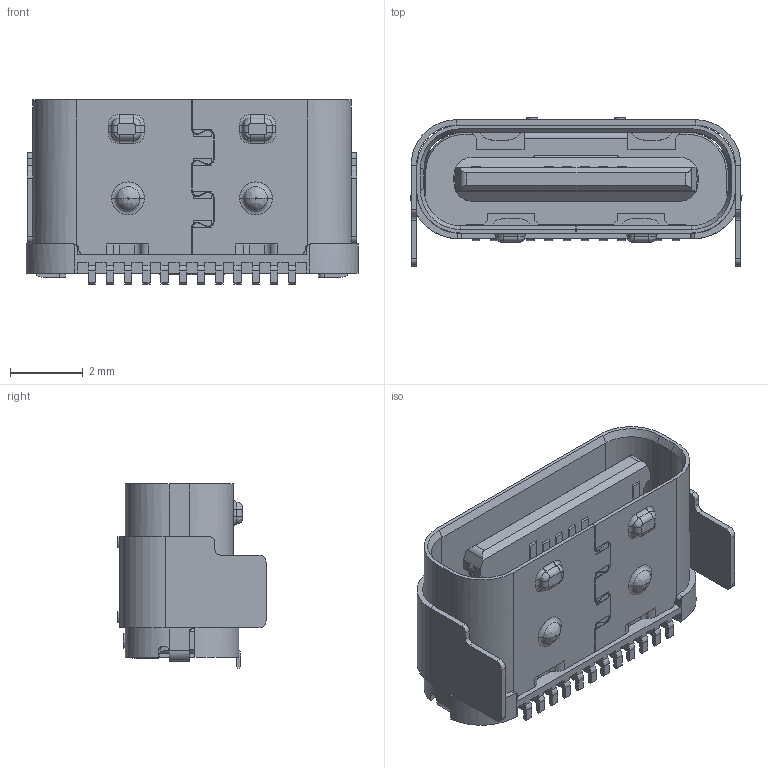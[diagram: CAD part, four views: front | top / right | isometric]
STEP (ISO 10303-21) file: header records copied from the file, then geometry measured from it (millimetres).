
FILE_DESCRIPTION (( 'STEP AP203' ), '1' );
FILE_NAME ('GT-USB-7059A.STEP', '2023-10-25T08:16:05', ( 'Microsoft' ), ( 'Microsoft' ), 'SwSTEP 2.0', 'SolidWorks 2023', '' );
FILE_SCHEMA (( 'CONFIG_CONTROL_DESIGN' ));
Length unit declared in the file: millimetre
Products named in the file (1): GT-USB-7059A
Bounding box: 9.1 x 4.06 x 5.05 mm (x, y, z)
Volume: 62.7 mm3; surface area: 333.4 mm2
Topology: 1 solids, 9 shells, 1040 faces, 2927 edges, 1904 vertices
Faces by surface type: plane 678, cylinder 216, bspline 98, torus 24, cone 24
Entity records: 37780 total; most frequent: CARTESIAN_POINT 11182, ORIENTED_EDGE 5838, DIRECTION 5108, EDGE_CURVE 2919, LINE 2114, VECTOR 2114, VERTEX_POINT 1900, AXIS2_PLACEMENT_3D 1497
